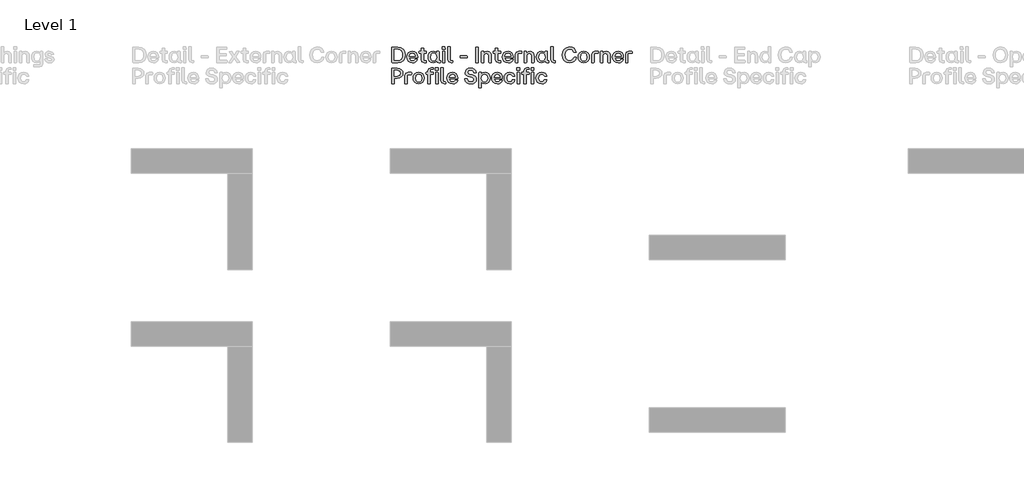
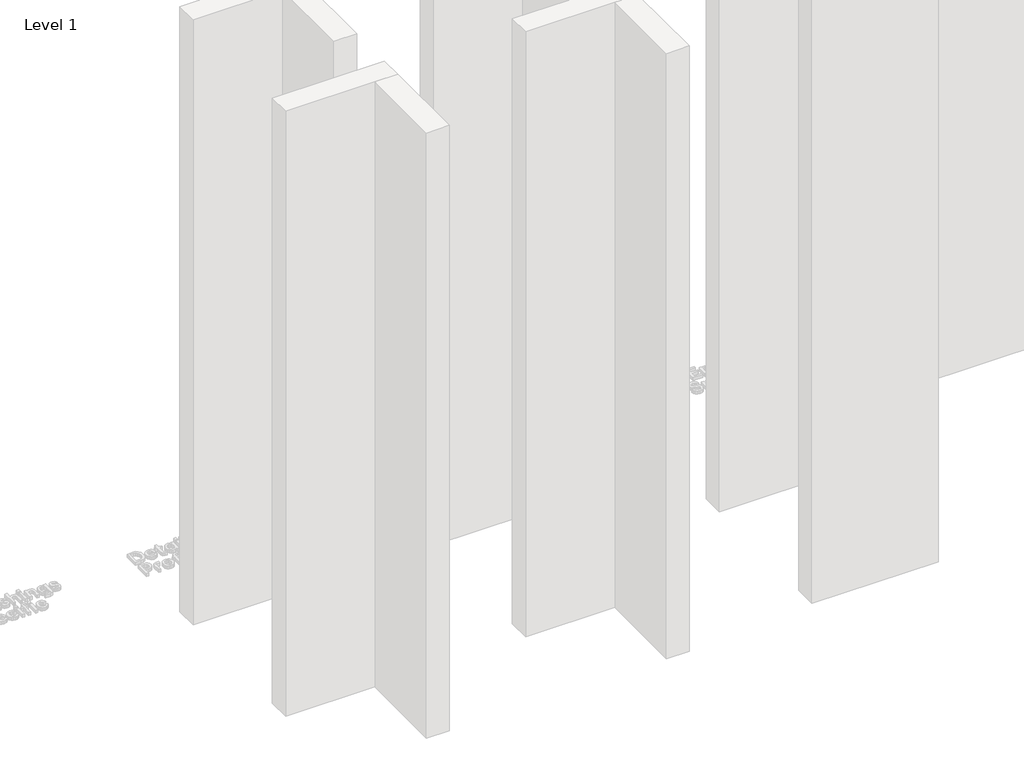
# One storey, part 35 of 64: 1 proxy.
"""IFC4 building model written with IfcOpenShell, lengths in millimetres."""

from ifc_helpers import new_model, si_unit, origin, origin_with_axes, place, context, project, spatial, polyline, outline, extrude, element, save

model = new_model("IFC4")

# Units and contexts
model_context = context("Model", 3, world=origin())
ifc_project = project(units=[si_unit("LENGTHUNIT", "METRE", prefix="MILLI")], contexts=[model_context])

# Site, building, storey
site = spatial("IfcSite", under=ifc_project)
building = spatial("IfcBuilding", under=site)
storey = spatial("IfcBuildingStorey", under=building, Name="Level 1", Elevation=0.0)

# Proxy
placement = place(None, origin())
element("IfcBuildingElementProxy", 1, Name="90mm", ObjectType="90mm", at=placement, inside=storey, context=model_context, shape_type="SweptSolid", body=[
    extrude(outline(polyline([(10610.2926176, -6500.0), (10608.9872124, -6498.7448027), (10608.9872124, -6411.3077612), (10642.5511873, -6410.002356), (10660.5475781, -6413.0054155), (10674.1193986, -6422.0145938), (10682.63905, -6436.3583606), (10685.4789338, -6455.3651852), (10682.648464, -6474.2025582), (10674.1570545, -6488.2890095), (10660.594648, -6497.0722524), (10642.5511873, -6500.0), (10610.2926176, -6500.0)]), holes=[polyline([(10623.7985402, -6487.3727155), (10641.6725492, -6487.3727155), (10653.8950326, -6485.311054), (10662.9481429, -6479.1260695), (10668.5494607, -6469.0625254), (10670.4165666, -6455.3651852), (10668.5431847, -6441.5109454), (10662.923039, -6431.1775339), (10653.8636527, -6424.7477859), (10641.6725492, -6422.6045366), (10623.7985402, -6422.6045366), (10623.7985402, -6487.3727155)])]), origin_with_axes(), (0.0, 0.0, 1.0), 20.0),
    extrude(outline(polyline([(10727.628458, -6500.7531184), (10714.0409476, -6498.4843493), (10703.5035666, -6491.6780421), (10696.7443293, -6481.0622112), (10694.4912502, -6467.3648711), (10696.7349153, -6453.5012173), (10703.4659107, -6442.7881086), (10713.9938777, -6435.9347315), (10727.628458, -6433.6502725), (10740.1584647, -6435.9033516), (10749.7324819, -6442.6625889), (10755.8044987, -6453.3129377), (10757.8285043, -6467.2393514), (10757.8285043, -6470.6785919), (10756.573307, -6472.009101), (10709.1268503, -6472.009101), (10714.6497183, -6484.6865934), (10727.628458, -6489.2053035), (10738.0465953, -6486.9082925), (10743.4439436, -6480.4691305), (10744.8246606, -6479.4147648), (10756.1967478, -6479.4147648), (10754.1633282, -6488.7314665), (10747.8120301, -6495.1925945), (10738.8248176, -6499.3629874), (10727.628458, -6500.7531184)]), holes=[polyline([(10709.2523701, -6461.5909637), (10743.8205028, -6461.5909637), (10739.0633051, -6449.6289337), (10727.628458, -6445.2733992), (10714.8631018, -6449.4155502), (10709.2523701, -6461.5909637)])]), origin_with_axes(), (0.0, 0.0, 1.0), 20.0),
    extrude(outline(polyline([(10796.6140998, -6500.0), (10782.731618, -6495.2302504), (10777.9618684, -6481.3477686), (10777.9618684, -6445.7754781), (10766.7906127, -6445.7754781), (10765.4852076, -6435.7339), (10766.7906127, -6434.4787027), (10777.9618684, -6434.4787027), (10777.9618684, -6416.45407), (10779.2170657, -6415.1486648), (10790.9657121, -6415.1486648), (10792.2209094, -6416.45407), (10792.2209094, -6434.4787027), (10808.0363949, -6434.4787027), (10809.3418001, -6435.7339), (10809.3418001, -6444.444969), (10792.2209094, -6445.7754781), (10792.2209094, -6488.7032246), (10808.0363949, -6488.7032246), (10809.3418001, -6489.9584219), (10809.3418001, -6498.7448027), (10808.0363949, -6500.0), (10796.6140998, -6500.0)])), origin_with_axes(), (0.0, 0.0, 1.0), 20.0),
    extrude(outline(polyline([(10847.2738615, -6500.7531184), (10835.3243835, -6498.4843493), (10826.0861316, -6491.6780421), (10820.1741525, -6481.0622112), (10818.2034928, -6467.3648711), (10820.1741525, -6453.5325972), (10826.0861316, -6442.8132125), (10835.3243835, -6435.9410075), (10847.2738615, -6433.6502725), (10859.1856835, -6436.5372262), (10868.160344, -6444.444969), (10868.7377347, -6435.7339), (10869.992932, -6434.4787027), (10881.6662665, -6434.4787027), (10882.9716717, -6435.7339), (10882.9716717, -6488.7032246), (10890.0760882, -6488.7032246), (10891.3312855, -6489.9584219), (10891.3312855, -6498.7448027), (10890.0760882, -6500.0), (10880.536589, -6500.0), (10872.1581473, -6497.6465051), (10869.3653333, -6490.5860205), (10859.7254183, -6497.8661646), (10847.2738615, -6500.7531184)]), holes=[polyline([(10832.7135732, -6467.3648711), (10837.6716024, -6483.3686362), (10843.5365116, -6487.7461367), (10851.2151809, -6489.2053035), (10858.7714684, -6487.7524127), (10864.470064, -6483.3937402), (10869.2398136, -6467.3648711), (10864.4324081, -6451.1728263), (10858.7243985, -6446.748256), (10851.2151809, -6445.2733992), (10843.5365116, -6446.748256), (10837.6716024, -6451.1728263), (10832.7135732, -6467.3648711)])]), origin_with_axes(), (0.0, 0.0, 1.0), 20.0),
    extrude(outline(polyline([(10903.6824266, -6500.0), (10902.3770214, -6498.7448027), (10902.3770214, -6435.7339), (10903.6824266, -6434.4787027), (10915.3557612, -6434.4787027), (10916.6109584, -6435.7339), (10916.6109584, -6498.7448027), (10915.3557612, -6500.0), (10903.6824266, -6500.0)])), origin_with_axes(), (0.0, 0.0, 1.0), 20.0),
    extrude(outline(polyline([(10901.3728636, -6421.8514182), (10901.3728636, -6407.9940404), (10902.6280609, -6406.6635313), (10916.4854387, -6406.6635313), (10917.8159478, -6421.8514182), (10916.4854387, -6423.1066155), (10902.6280609, -6423.1066155), (10901.3728636, -6421.8514182)])), origin_with_axes(), (0.0, 0.0, 1.0), 20.0),
    extrude(outline(polyline([(10951.5305464, -6500.0), (10937.6731686, -6495.2302504), (10932.903419, -6481.3477686), (10932.903419, -6408.7471587), (10945.8821587, -6407.4166496), (10947.137356, -6408.7471587), (10947.137356, -6488.7032246), (10959.1370418, -6488.7032246), (10960.3922391, -6489.9584219), (10960.3922391, -6498.7448027), (10959.1370418, -6500.0), (10951.5305464, -6500.0)])), origin_with_axes(), (0.0, 0.0, 1.0), 20.0),
    extrude(outline(polyline([(11005.1776775, -6472.887739), (11003.9224803, -6471.5572299), (11003.9224803, -6461.5909637), (11005.1776775, -6460.2604546), (11043.7875455, -6460.2604546), (11045.0427427, -6461.5909637), (11045.0427427, -6471.5572299), (11043.7875455, -6472.887739), (11005.1776775, -6472.887739)])), origin_with_axes(), (0.0, 0.0, 1.0), 20.0),
    extrude(outline(polyline([(11096.1292715, -6500.0), (11094.8740742, -6498.7448027), (11094.8740742, -6411.3077612), (11096.1292715, -6410.002356), (11108.3799968, -6410.002356), (11109.635194, -6411.3077612), (11109.635194, -6498.7448027), (11108.3799968, -6500.0), (11096.1292715, -6500.0)])), origin_with_axes(), (0.0, 0.0, 1.0), 20.0),
    extrude(outline(polyline([(11128.6137767, -6500.0), (11127.3083716, -6498.7448027), (11127.3083716, -6435.7339), (11128.6137767, -6434.4787027), (11139.6595127, -6434.4787027), (11140.9147099, -6435.7339), (11140.9147099, -6444.444969), (11150.2094457, -6436.3489466), (11162.1275437, -6433.6502725), (11172.0530161, -6435.5330684), (11179.3362982, -6441.1814561), (11183.8079385, -6450.4573639), (11185.2984853, -6463.2227201), (11185.2984853, -6498.7448027), (11183.9679762, -6500.0), (11172.2946416, -6500.0), (11170.9892364, -6498.7448027), (11170.9892364, -6463.2227201), (11167.4746841, -6449.942733), (11156.3661883, -6445.7754781), (11145.1572767, -6450.0054929), (11141.5423086, -6463.2227201), (11141.5423086, -6498.7448027), (11140.2871113, -6500.0), (11128.6137767, -6500.0)])), origin_with_axes(), (0.0, 0.0, 1.0), 20.0),
    extrude(outline(polyline([(11227.19697, -6500.0), (11213.3144882, -6495.2302504), (11208.5447386, -6481.3477686), (11208.5447386, -6445.7754781), (11197.373483, -6445.7754781), (11196.0680778, -6435.7339), (11197.373483, -6434.4787027), (11208.5447386, -6434.4787027), (11208.5447386, -6416.45407), (11209.7999359, -6415.1486648), (11221.5485823, -6415.1486648), (11222.8037796, -6416.45407), (11222.8037796, -6434.4787027), (11238.6192651, -6434.4787027), (11239.9246703, -6435.7339), (11239.9246703, -6444.444969), (11222.8037796, -6445.7754781), (11222.8037796, -6488.7032246), (11238.6192651, -6488.7032246), (11239.9246703, -6489.9584219), (11239.9246703, -6498.7448027), (11238.6192651, -6500.0), (11227.19697, -6500.0)])), origin_with_axes(), (0.0, 0.0, 1.0), 20.0),
    extrude(outline(polyline([(11281.9235708, -6500.7531184), (11268.3360604, -6498.4843493), (11257.7986794, -6491.6780421), (11251.0394421, -6481.0622112), (11248.786363, -6467.3648711), (11251.0300281, -6453.5012173), (11257.7610234, -6442.7881086), (11268.2889905, -6435.9347315), (11281.9235708, -6433.6502725), (11294.4535775, -6435.9033516), (11304.0275947, -6442.6625889), (11310.0996115, -6453.3129377), (11312.123617, -6467.2393514), (11312.123617, -6470.6785919), (11310.8684198, -6472.009101), (11263.4219631, -6472.009101), (11268.9448311, -6484.6865934), (11281.9235708, -6489.2053035), (11292.3417081, -6486.9082925), (11297.7390564, -6480.4691305), (11299.1197734, -6479.4147648), (11310.4918606, -6479.4147648), (11308.458441, -6488.7314665), (11302.1071429, -6495.1925945), (11293.1199304, -6499.3629874), (11281.9235708, -6500.7531184)]), holes=[polyline([(11263.5474828, -6461.5909637), (11298.1156156, -6461.5909637), (11293.3584179, -6449.6289337), (11281.9235708, -6445.2733992), (11269.1582146, -6449.4155502), (11263.5474828, -6461.5909637)])]), origin_with_axes(), (0.0, 0.0, 1.0), 20.0),
    extrude(outline(polyline([(11325.5542278, -6500.0), (11324.2990305, -6498.7448027), (11324.2990305, -6453.0556222), (11329.0687801, -6439.2107964), (11342.926158, -6434.4787027), (11361.2018302, -6434.4787027), (11362.4570274, -6435.7339), (11362.4570274, -6445.2733992), (11361.2018302, -6446.5285965), (11338.5329675, -6446.5285965), (11338.5329675, -6498.7448027), (11337.2777703, -6500.0), (11325.5542278, -6500.0)])), origin_with_axes(), (0.0, 0.0, 1.0), 20.0),
    extrude(outline(polyline([(11376.0382618, -6500.0), (11374.7328567, -6498.7448027), (11374.7328567, -6435.7339), (11376.0382618, -6434.4787027), (11387.0839978, -6434.4787027), (11388.339195, -6435.7339), (11388.339195, -6444.444969), (11397.6339308, -6436.3489466), (11409.5520288, -6433.6502725), (11419.4775012, -6435.5330684), (11426.7607834, -6441.1814561), (11431.2324236, -6450.4573639), (11432.7229704, -6463.2227201), (11432.7229704, -6498.7448027), (11431.3924613, -6500.0), (11419.7191267, -6500.0), (11418.4137215, -6498.7448027), (11418.4137215, -6463.2227201), (11414.8991692, -6449.942733), (11403.7906734, -6445.7754781), (11392.5817618, -6450.0054929), (11388.9667937, -6463.2227201), (11388.9667937, -6498.7448027), (11387.7115964, -6500.0), (11376.0382618, -6500.0)])), origin_with_axes(), (0.0, 0.0, 1.0), 20.0),
    extrude(outline(polyline([(11473.8683368, -6500.7531184), (11461.9188588, -6498.4843493), (11452.6806069, -6491.6780421), (11446.7686278, -6481.0622112), (11444.7979681, -6467.3648711), (11446.7686278, -6453.5325972), (11452.6806069, -6442.8132125), (11461.9188588, -6435.9410075), (11473.8683368, -6433.6502725), (11485.7801588, -6436.5372262), (11494.7548193, -6444.444969), (11495.33221, -6435.7339), (11496.5874073, -6434.4787027), (11508.2607419, -6434.4787027), (11509.566147, -6435.7339), (11509.566147, -6488.7032246), (11516.6705636, -6488.7032246), (11517.9257608, -6489.9584219), (11517.9257608, -6498.7448027), (11516.6705636, -6500.0), (11507.1310643, -6500.0), (11498.7526226, -6497.6465051), (11495.9598087, -6490.5860205), (11486.3198937, -6497.8661646), (11473.8683368, -6500.7531184)]), holes=[polyline([(11459.3080485, -6467.3648711), (11464.2660777, -6483.3686362), (11470.1309869, -6487.7461367), (11477.8096562, -6489.2053035), (11485.3659437, -6487.7524127), (11491.0645393, -6483.3937402), (11495.8342889, -6467.3648711), (11491.0268834, -6451.1728263), (11485.3188738, -6446.748256), (11477.8096562, -6445.2733992), (11470.1309869, -6446.748256), (11464.2660777, -6451.1728263), (11459.3080485, -6467.3648711)])]), origin_with_axes(), (0.0, 0.0, 1.0), 20.0),
    extrude(outline(polyline([(11547.5986242, -6500.0), (11533.7412464, -6495.2302504), (11528.9714968, -6481.3477686), (11528.9714968, -6408.7471587), (11541.9502365, -6407.4166496), (11543.2054338, -6408.7471587), (11543.2054338, -6488.7032246), (11555.2051196, -6488.7032246), (11556.4603169, -6489.9584219), (11556.4603169, -6498.7448027), (11555.2051196, -6500.0), (11547.5986242, -6500.0)])), origin_with_axes(), (0.0, 0.0, 1.0), 20.0),
    extrude(outline(polyline([(11638.5251142, -6500.7531184), (11620.5130334, -6497.6684711), (11606.6431036, -6488.4145292), (11597.7939629, -6473.8887589), (11594.8442493, -6454.988626), (11597.8190668, -6436.4054305), (11606.7435194, -6421.8263143), (11620.6385531, -6412.3935068), (11638.5251142, -6409.2492376), (11652.4734938, -6411.3265891), (11664.0432746, -6417.5586436), (11672.3620945, -6427.2424905), (11676.5575913, -6439.6752194), (11663.37802, -6441.1312482), (11661.9470951, -6440.0015707), (11654.0832843, -6426.3889563), (11638.5251142, -6421.8514182), (11626.6007401, -6424.0731174), (11617.5382159, -6430.7382148), (11611.8145163, -6441.244216), (11609.9066165, -6454.988626), (11611.8051024, -6468.9464196), (11617.50056, -6479.4398688), (11626.5536702, -6486.0108265), (11638.5251142, -6488.2011457), (11654.3908076, -6483.7263674), (11662.8257332, -6470.3020327), (11664.2566581, -6469.1221472), (11676.1810321, -6469.1221472), (11673.0085211, -6482.8791093), (11664.5453535, -6492.4688164), (11652.7872931, -6498.6820429), (11638.5251142, -6500.7531184)])), origin_with_axes(), (0.0, 0.0, 1.0), 20.0),
    extrude(outline(polyline([(11720.1631444, -6500.7531184), (11706.9365032, -6498.4466934), (11696.4775719, -6491.5274185), (11689.6712648, -6480.8739317), (11687.4024957, -6467.3648711), (11689.6775408, -6453.7679467), (11696.5026759, -6443.0014921), (11706.9678831, -6435.9880774), (11720.1631444, -6433.6502725), (11733.5153053, -6435.9880774), (11744.0495483, -6443.0014921), (11750.8935114, -6453.7679467), (11753.1748325, -6467.3648711), (11750.8935114, -6480.8739317), (11744.0495483, -6491.5274185), (11733.5153053, -6498.4466934), (11720.1631444, -6500.7531184)]), holes=[polyline([(11701.9125761, -6467.3648711), (11706.7701895, -6483.3937402), (11712.5472349, -6487.7524127), (11720.1631444, -6489.2053035), (11727.8606416, -6487.7461367), (11733.7318268, -6483.3686362), (11738.689856, -6467.3648711), (11733.7569308, -6451.1728263), (11727.8920215, -6446.748256), (11720.1631444, -6445.2733992), (11712.5472349, -6446.748256), (11706.7701895, -6451.1728263), (11701.9125761, -6467.3648711)])]), origin_with_axes(), (0.0, 0.0, 1.0), 20.0),
    extrude(outline(polyline([(11767.3836655, -6500.0), (11766.1284682, -6498.7448027), (11766.1284682, -6453.0556222), (11770.8982179, -6439.2107964), (11784.7555957, -6434.4787027), (11803.0312679, -6434.4787027), (11804.2864651, -6435.7339), (11804.2864651, -6445.2733992), (11803.0312679, -6446.5285965), (11780.3624052, -6446.5285965), (11780.3624052, -6498.7448027), (11779.107208, -6500.0), (11767.3836655, -6500.0)])), origin_with_axes(), (0.0, 0.0, 1.0), 20.0),
    extrude(outline(polyline([(11817.8676996, -6500.0), (11816.5622944, -6498.7448027), (11816.5622944, -6435.7339), (11817.8676996, -6434.4787027), (11828.9134355, -6434.4787027), (11830.1686328, -6435.7339), (11830.1686328, -6444.444969), (11839.4633685, -6436.3489466), (11851.3814666, -6433.6502725), (11861.306939, -6435.5330684), (11868.5902211, -6441.1814561), (11873.0618614, -6450.4573639), (11874.5524081, -6463.2227201), (11874.5524081, -6498.7448027), (11873.221899, -6500.0), (11861.5485644, -6500.0), (11860.2431593, -6498.7448027), (11860.2431593, -6463.2227201), (11856.7286069, -6449.942733), (11845.6201111, -6445.7754781), (11834.4111995, -6450.0054929), (11830.7962314, -6463.2227201), (11830.7962314, -6498.7448027), (11829.5410341, -6500.0), (11817.8676996, -6500.0)])), origin_with_axes(), (0.0, 0.0, 1.0), 20.0),
    extrude(outline(polyline([(11919.7646136, -6500.7531184), (11906.1771032, -6498.4843493), (11895.6397222, -6491.6780421), (11888.8804849, -6481.0622112), (11886.6274058, -6467.3648711), (11888.8710709, -6453.5012173), (11895.6020663, -6442.7881086), (11906.1300333, -6435.9347315), (11919.7646136, -6433.6502725), (11932.2946204, -6435.9033516), (11941.8686375, -6442.6625889), (11947.9406543, -6453.3129377), (11949.9646599, -6467.2393514), (11949.9646599, -6470.6785919), (11948.7094626, -6472.009101), (11901.2630059, -6472.009101), (11906.7858739, -6484.6865934), (11919.7646136, -6489.2053035), (11930.182751, -6486.9082925), (11935.5800992, -6480.4691305), (11936.9608162, -6479.4147648), (11948.3329034, -6479.4147648), (11946.2994838, -6488.7314665), (11939.9481857, -6495.1925945), (11930.9609733, -6499.3629874), (11919.7646136, -6500.7531184)]), holes=[polyline([(11901.3885257, -6461.5909637), (11935.9566584, -6461.5909637), (11931.1994607, -6449.6289337), (11919.7646136, -6445.2733992), (11906.9992574, -6449.4155502), (11901.3885257, -6461.5909637)])]), origin_with_axes(), (0.0, 0.0, 1.0), 20.0),
    extrude(outline(polyline([(11963.3952706, -6500.0), (11962.1400733, -6498.7448027), (11962.1400733, -6453.0556222), (11966.909823, -6439.2107964), (11980.7672008, -6434.4787027), (11999.042873, -6434.4787027), (12000.2980702, -6435.7339), (12000.2980702, -6445.2733992), (11999.042873, -6446.5285965), (11976.3740103, -6446.5285965), (11976.3740103, -6498.7448027), (11975.1188131, -6500.0), (11963.3952706, -6500.0)])), origin_with_axes(), (0.0, 0.0, 1.0), 20.0),
    extrude(outline(polyline([(10610.2926176, -6622.13305), (10608.9872124, -6620.8778528), (10608.9872124, -6533.4408112), (10640.1161046, -6532.135406), (10654.0174144, -6534.0338919), (10664.3414119, -6539.7293495), (10670.7429179, -6548.9236695), (10672.8767533, -6561.3187425), (10670.7429179, -6573.7138155), (10664.3414119, -6582.9081354), (10654.0174144, -6588.603593), (10640.1161046, -6590.5020789), (10623.7985402, -6590.5020789), (10623.7985402, -6620.8778528), (10622.4680311, -6622.13305), (10610.2926176, -6622.13305)]), holes=[polyline([(10623.7985402, -6577.8747944), (10640.1161046, -6577.8747944), (10653.5969233, -6573.7954033), (10657.9901137, -6561.3061905), (10653.5969233, -6548.8169777), (10640.1161046, -6544.7375866), (10623.7985402, -6544.7375866), (10623.7985402, -6577.8747944)])]), origin_with_axes(), (0.0, 0.0, 1.0), 20.0),
    extrude(outline(polyline([(10686.1065325, -6622.13305), (10684.8513352, -6620.8778528), (10684.8513352, -6575.1886723), (10689.6210848, -6561.3438464), (10703.4784626, -6556.6117527), (10721.7541348, -6556.6117527), (10723.0093321, -6557.86695), (10723.0093321, -6567.4064492), (10721.7541348, -6568.6616465), (10699.0852722, -6568.6616465), (10699.0852722, -6620.8778528), (10697.8300749, -6622.13305), (10686.1065325, -6622.13305)])), origin_with_axes(), (0.0, 0.0, 1.0), 20.0),
    extrude(outline(polyline([(10764.2049064, -6622.8861684), (10750.9782652, -6620.5797434), (10740.519334, -6613.6604685), (10733.7130268, -6603.0069817), (10731.4442577, -6589.4979211), (10733.7193028, -6575.9009967), (10740.5444379, -6565.1345422), (10751.0096451, -6558.1211274), (10764.2049064, -6555.7833225), (10777.5570673, -6558.1211274), (10788.0913103, -6565.1345422), (10794.9352734, -6575.9009967), (10797.2165945, -6589.4979211), (10794.9352734, -6603.0069817), (10788.0913103, -6613.6604685), (10777.5570673, -6620.5797434), (10764.2049064, -6622.8861684)]), holes=[polyline([(10745.9543381, -6589.4979211), (10750.8119515, -6605.5267902), (10756.588997, -6609.8854627), (10764.2049064, -6611.3383535), (10771.9024036, -6609.8791867), (10777.7735888, -6605.5016862), (10782.731618, -6589.4979211), (10777.7986928, -6573.3058764), (10771.9337835, -6568.881306), (10764.2049064, -6567.4064492), (10756.588997, -6568.881306), (10750.8119515, -6573.3058764), (10745.9543381, -6589.4979211)])]), origin_with_axes(), (0.0, 0.0, 1.0), 20.0),
    extrude(outline(polyline([(10861.3069669, -6543.9844682), (10861.3069669, -6530.1270904), (10862.5621642, -6528.7965813), (10876.4948538, -6528.7965813), (10877.7500511, -6530.1270904), (10877.7500511, -6543.9844682), (10876.4948538, -6545.2396655), (10862.5621642, -6545.2396655), (10861.3069669, -6543.9844682)])), origin_with_axes(), (0.0, 0.0, 1.0), 20.0),
    extrude(outline(polyline([(10862.3111247, -6620.8778528), (10862.3111247, -6557.86695), (10863.6416338, -6556.6117527), (10875.3149684, -6556.6117527), (10876.6203735, -6557.86695), (10876.6203735, -6620.8778528), (10875.3149684, -6622.13305), (10863.6416338, -6622.13305), (10862.3111247, -6620.8778528)])), origin_with_axes(), (0.0, 0.0, 1.0), 20.0),
    extrude(outline(polyline([(10819.3833782, -6622.13305), (10818.1281809, -6620.8778528), (10818.1281809, -6567.9085281), (10806.9569253, -6567.9085281), (10805.6515201, -6557.86695), (10806.9569253, -6556.6117527), (10818.1281809, -6556.6117527), (10818.1281809, -6548.201931), (10822.8979305, -6534.3194493), (10836.7804123, -6529.5496997), (10848.2027074, -6529.5496997), (10849.5081126, -6539.5912778), (10832.3872219, -6540.9217869), (10832.3872219, -6556.6117527), (10848.2027074, -6556.6117527), (10849.5081126, -6557.86695), (10849.5081126, -6566.578019), (10832.3872219, -6567.9085281), (10832.3872219, -6620.8778528), (10831.1320246, -6622.13305), (10819.3833782, -6622.13305)])), origin_with_axes(), (0.0, 0.0, 1.0), 20.0),
    extrude(outline(polyline([(10911.3642339, -6622.13305), (10897.506856, -6617.3633004), (10892.7371064, -6603.4808186), (10892.7371064, -6530.8802088), (10905.7158462, -6529.5496997), (10906.9710434, -6530.8802088), (10906.9710434, -6610.8362746), (10918.9707293, -6610.8362746), (10920.2259266, -6612.0914719), (10920.2259266, -6620.8778528), (10918.9707293, -6622.13305), (10911.3642339, -6622.13305)])), origin_with_axes(), (0.0, 0.0, 1.0), 20.0),
    extrude(outline(polyline([(10960.5930707, -6622.8861684), (10947.0055602, -6620.6173993), (10936.4681792, -6613.8110921), (10929.7089419, -6603.1952613), (10927.4558628, -6589.4979211), (10929.6995279, -6575.6342673), (10936.4305233, -6564.9211586), (10946.9584903, -6558.0677815), (10960.5930707, -6555.7833225), (10973.1230774, -6558.0364016), (10982.6970945, -6564.7956389), (10988.7691113, -6575.4459877), (10990.7931169, -6589.3724014), (10990.7931169, -6592.8116419), (10989.5379196, -6594.142151), (10942.0914629, -6594.142151), (10947.6143309, -6606.8196434), (10960.5930707, -6611.3383535), (10971.011208, -6609.0413425), (10976.4085562, -6602.6021806), (10977.7892732, -6601.5478148), (10989.1613604, -6601.5478148), (10987.1279409, -6610.8645166), (10980.7766427, -6617.3256445), (10971.7894303, -6621.4960374), (10960.5930707, -6622.8861684)]), holes=[polyline([(10942.2169827, -6583.7240137), (10976.7851154, -6583.7240137), (10972.0279177, -6571.7619837), (10960.5930707, -6567.4064492), (10947.8277145, -6571.5486002), (10942.2169827, -6583.7240137)])]), origin_with_axes(), (0.0, 0.0, 1.0), 20.0),
    extrude(outline(polyline([(11066.8831752, -6622.8861684), (11053.1136611, -6621.0347524), (11042.4319324, -6615.4805045), (11035.1706162, -6606.5058441), (11031.6623399, -6594.3931904), (11044.917223, -6592.9371616), (11046.2226282, -6594.142151), (11052.4107507, -6606.6941236), (11066.8831752, -6610.5852352), (11079.3974919, -6607.007923), (11083.8785461, -6597.0793126), (11080.7782089, -6588.8326665), (11070.3977275, -6584.7281715), (11058.5235614, -6582.644544), (11047.5186193, -6579.3904451), (11039.6579465, -6574.0715467), (11034.9415427, -6566.6878488), (11033.3694082, -6557.2393514), (11035.3839998, -6546.397585), (11041.4277746, -6538.2231128), (11051.0802416, -6533.0924939), (11063.9209096, -6531.3822877), (11076.6548859, -6533.1144599), (11086.5897722, -6538.3109766), (11093.3803895, -6546.6643144), (11096.6815583, -6557.86695), (11083.501987, -6559.2978749), (11082.0710621, -6557.86695), (11076.2594987, -6547.1601173), (11063.9209096, -6543.7334288), (11052.1597112, -6546.8714219), (11048.1054241, -6556.034362), (11051.7203922, -6564.732879), (11063.0422715, -6569.2892451), (11074.8411258, -6571.3477686), (11085.6609263, -6574.5171417), (11093.0163822, -6579.6069666), (11097.2338451, -6586.9373187), (11098.639666, -6596.8282731), (11096.5277966, -6607.7422134), (11090.1921884, -6615.9825834), (11080.1411963, -6621.1602721), (11066.8831752, -6622.8861684)])), origin_with_axes(), (0.0, 0.0, 1.0), 20.0),
    extrude(outline(polyline([(11114.1539042, -6646.5340849), (11112.848499, -6645.2788876), (11112.848499, -6557.86695), (11114.1539042, -6556.6117527), (11125.1996401, -6556.6117527), (11126.4548374, -6557.86695), (11126.4548374, -6566.4524993), (11136.0947524, -6558.6702762), (11148.5463093, -6555.7833225), (11160.4957873, -6558.0583676), (11169.7340392, -6564.8835027), (11175.6460183, -6575.5244375), (11177.616678, -6589.2468816), (11175.6460183, -6603.0540516), (11169.7340392, -6613.7483323), (11160.4957873, -6620.6017094), (11148.5463093, -6622.8861684), (11136.6344872, -6619.9992147), (11127.6598268, -6612.0914719), (11127.082436, -6645.2788876), (11125.8272388, -6646.5340849), (11114.1539042, -6646.5340849)]), holes=[polyline([(11126.5803571, -6589.2468816), (11131.3877627, -6605.4389264), (11137.0957722, -6609.8634967), (11144.6049899, -6611.3383535), (11152.2836592, -6609.8634967), (11158.1485684, -6605.4389264), (11163.1065976, -6589.2468816), (11158.1485684, -6573.2431165), (11152.2836592, -6568.865616), (11144.6049899, -6567.4064492), (11137.0487023, -6568.856202), (11131.3501068, -6573.2054606), (11126.5803571, -6589.2468816)])]), origin_with_axes(), (0.0, 0.0, 1.0), 20.0),
    extrude(outline(polyline([(11219.2641233, -6622.8861684), (11205.6766129, -6620.6173993), (11195.1392318, -6613.8110921), (11188.3799945, -6603.1952613), (11186.1269155, -6589.4979211), (11188.3705806, -6575.6342673), (11195.1015759, -6564.9211586), (11205.629543, -6558.0677815), (11219.2641233, -6555.7833225), (11231.79413, -6558.0364016), (11241.3681471, -6564.7956389), (11247.4401639, -6575.4459877), (11249.4641695, -6589.3724014), (11249.4641695, -6592.8116419), (11248.2089722, -6594.142151), (11200.7625156, -6594.142151), (11206.2853836, -6606.8196434), (11219.2641233, -6611.3383535), (11229.6822606, -6609.0413425), (11235.0796088, -6602.6021806), (11236.4603258, -6601.5478148), (11247.8324131, -6601.5478148), (11245.7989935, -6610.8645166), (11239.4476953, -6617.3256445), (11230.4604829, -6621.4960374), (11219.2641233, -6622.8861684)]), holes=[polyline([(11200.8880353, -6583.7240137), (11235.456168, -6583.7240137), (11230.6989704, -6571.7619837), (11219.2641233, -6567.4064492), (11206.4987671, -6571.5486002), (11200.8880353, -6583.7240137)])]), origin_with_axes(), (0.0, 0.0, 1.0), 20.0),
    extrude(outline(polyline([(11291.4379661, -6622.8861684), (11277.9445955, -6620.6173993), (11267.4385944, -6613.8110921), (11260.6793571, -6603.1952613), (11258.426278, -6589.4979211), (11260.710737, -6575.9009967), (11267.5641141, -6565.1345422), (11278.1014951, -6558.1211274), (11291.4379661, -6555.7833225), (11302.4209422, -6557.3303532), (11311.3704987, -6561.971445), (11317.6841409, -6569.1543114), (11320.7593742, -6578.3266654), (11308.1320897, -6579.7073824), (11301.7054797, -6570.1678832), (11291.4379661, -6567.4064492), (11283.680847, -6568.881306), (11277.8316277, -6573.3058764), (11272.9363584, -6589.4979211), (11277.8567317, -6605.5644461), (11283.7122269, -6609.8948767), (11291.4379661, -6611.3383535), (11302.019279, -6608.7024393), (11307.3789714, -6600.1670979), (11308.7596884, -6598.9621085), (11320.1317756, -6598.9621085), (11318.12346, -6609.4712476), (11311.7470579, -6616.6980459), (11302.7033616, -6621.3391377), (11291.4379661, -6622.8861684)])), origin_with_axes(), (0.0, 0.0, 1.0), 20.0),
    extrude(outline(polyline([(11335.8719493, -6622.13305), (11334.5665442, -6620.8778528), (11334.5665442, -6557.86695), (11335.8719493, -6556.6117527), (11347.5452839, -6556.6117527), (11348.8004812, -6557.86695), (11348.8004812, -6620.8778528), (11347.5452839, -6622.13305), (11335.8719493, -6622.13305)])), origin_with_axes(), (0.0, 0.0, 1.0), 20.0),
    extrude(outline(polyline([(11333.5623863, -6543.9844682), (11333.5623863, -6530.1270904), (11334.8175836, -6528.7965813), (11348.6749614, -6528.7965813), (11350.0054705, -6543.9844682), (11348.6749614, -6545.2396655), (11334.8175836, -6545.2396655), (11333.5623863, -6543.9844682)])), origin_with_axes(), (0.0, 0.0, 1.0), 20.0),
    extrude(outline(polyline([(11373.678491, -6622.13305), (11372.4232937, -6620.8778528), (11372.4232937, -6567.9085281), (11361.252038, -6567.9085281), (11359.9466329, -6557.86695), (11361.252038, -6556.6117527), (11372.4232937, -6556.6117527), (11372.4232937, -6548.201931), (11377.1930433, -6534.3194493), (11391.0755251, -6529.5496997), (11402.4978202, -6529.5496997), (11403.8032254, -6539.5912778), (11386.6823347, -6540.9217869), (11386.6823347, -6556.6117527), (11402.4978202, -6556.6117527), (11403.8032254, -6557.86695), (11403.8032254, -6566.578019), (11386.6823347, -6567.9085281), (11386.6823347, -6620.8778528), (11385.4271374, -6622.13305), (11373.678491, -6622.13305)])), origin_with_axes(), (0.0, 0.0, 1.0), 20.0),
    extrude(outline(polyline([(11415.6020797, -6543.9844682), (11415.6020797, -6530.1270904), (11416.8572769, -6528.7965813), (11430.7899666, -6528.7965813), (11432.0451639, -6530.1270904), (11432.0451639, -6543.9844682), (11430.7899666, -6545.2396655), (11416.8572769, -6545.2396655), (11415.6020797, -6543.9844682)])), origin_with_axes(), (0.0, 0.0, 1.0), 20.0),
    extrude(outline(polyline([(11416.6062375, -6620.8778528), (11416.6062375, -6557.86695), (11417.9367466, -6556.6117527), (11429.6100812, -6556.6117527), (11430.9154863, -6557.86695), (11430.9154863, -6620.8778528), (11429.6100812, -6622.13305), (11417.9367466, -6622.13305), (11416.6062375, -6620.8778528)])), origin_with_axes(), (0.0, 0.0, 1.0), 20.0),
    extrude(outline(polyline([(11476.2030037, -6622.8861684), (11462.7096331, -6620.6173993), (11452.203632, -6613.8110921), (11445.4443947, -6603.1952613), (11443.1913156, -6589.4979211), (11445.4757746, -6575.9009967), (11452.3291517, -6565.1345422), (11462.8665327, -6558.1211274), (11476.2030037, -6555.7833225), (11487.1859798, -6557.3303532), (11496.1355363, -6561.971445), (11502.4491785, -6569.1543114), (11505.5244118, -6578.3266654), (11492.8971273, -6579.7073824), (11486.4705173, -6570.1678832), (11476.2030037, -6567.4064492), (11468.4458846, -6568.881306), (11462.5966653, -6573.3058764), (11457.701396, -6589.4979211), (11462.6217693, -6605.5644461), (11468.4772645, -6609.8948767), (11476.2030037, -6611.3383535), (11486.7843166, -6608.7024393), (11492.144009, -6600.1670979), (11493.524726, -6598.9621085), (11504.8968132, -6598.9621085), (11502.8884976, -6609.4712476), (11496.5120955, -6616.6980459), (11487.4683992, -6621.3391377), (11476.2030037, -6622.8861684)])), origin_with_axes(), (0.0, 0.0, 1.0), 20.0),
])

save(model, "model.ifc")
